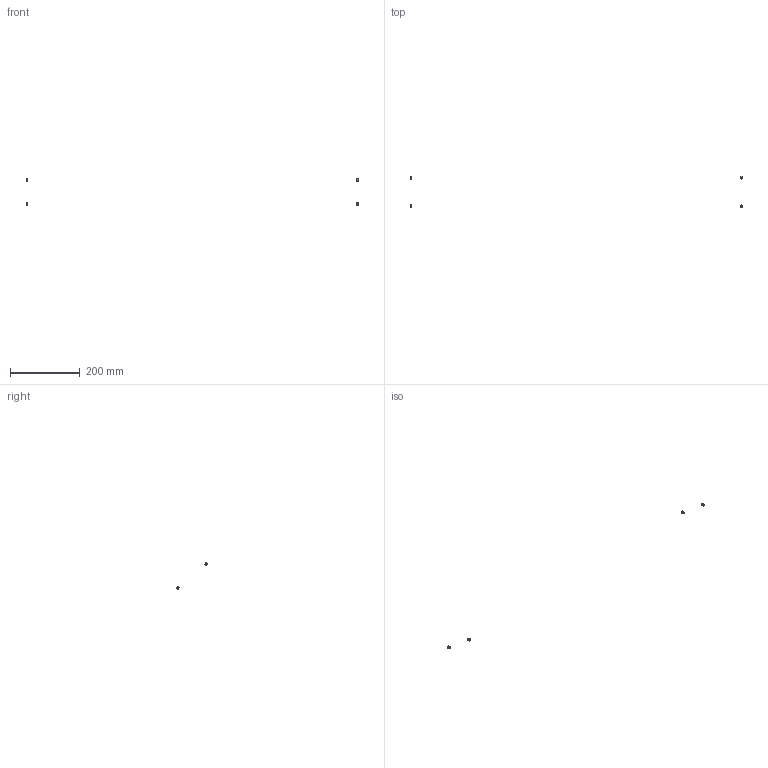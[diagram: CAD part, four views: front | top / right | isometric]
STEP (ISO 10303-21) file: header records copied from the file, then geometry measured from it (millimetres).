
FILE_DESCRIPTION(/* description */ (''),/* implementation_level */ '2;1');
FILE_NAME(/* name */ 'OP21FA~1',/* time_stamp */ '2014-02-14T19:49:44+01:00',/* author */ (''),/* organization */ (''),/* preprocessor_version */ 'ST-DEVELOPER v14',/* originating_system */ '',/* authorisation */ '');
FILE_SCHEMA (('AUTOMOTIVE_DESIGN'));
Length unit declared in the file: millimetre
Products named in the file (2): Document; nut DIN985-like, lock, M4
Assembly tree (4 placements, depth 2):
  Document
    nut DIN985-like, lock, M4  x4
Bounding box: 953.8 x 90.03 x 75.76 mm (x, y, z)
Volume: 461.4 mm3; surface area: 802.5 mm2
Topology: 4 solids, 4 shells, 216 faces, 520 edges, 312 vertices
Faces by surface type: bspline 124, plane 92
Entity records: 3566 total; most frequent: CARTESIAN_POINT 1885, ORIENTED_EDGE 260, PCURVE 260, DEFINITIONAL_REPRESENTATION 260, B_SPLINE_CURVE_WITH_KNOTS 249, SURFACE_CURVE 130, EDGE_CURVE 130, VERTEX_POINT 78
